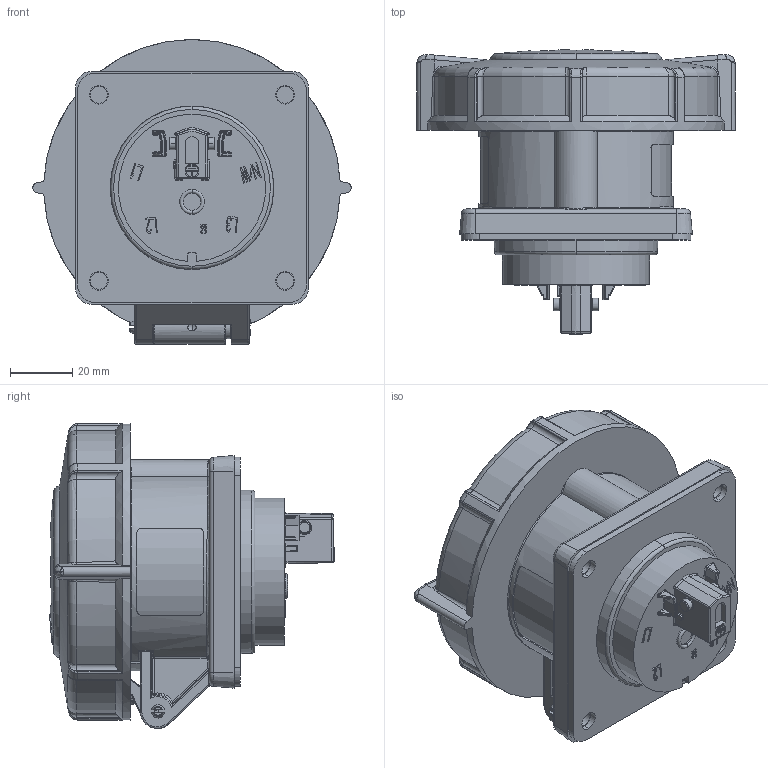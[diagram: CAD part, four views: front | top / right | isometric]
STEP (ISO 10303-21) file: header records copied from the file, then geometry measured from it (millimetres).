
FILE_DESCRIPTION((''),'2;1');
FILE_NAME('228A_SW0001','2020-11-20T08:52:26',('funke002'),('MENNEKES'),'CREO PARAMETRIC BY PTC INC, 2019080','CREO PARAMETRIC BY PTC INC, 2019080','');
FILE_SCHEMA(('AUTOMOTIVE_DESIGN { 1 0 10303 214 1 1 1 1 }'));
Products named in the file (1): 228A_SW0001
Bounding box: 102.6 x 91.78 x 98.29 mm (x, y, z)
Volume: 323075.4 mm3; surface area: 41622.7 mm2
Topology: 1 solids, 1 shells, 1131 faces, 2846 edges, 1758 vertices
Faces by surface type: plane 475, cylinder 289, bspline 198, torus 80, sphere 42, cone 39, extrusion 8
Entity records: 51608 total; most frequent: CARTESIAN_POINT 17836, ORIENTED_EDGE 5688, DIRECTION 4717, EDGE_CURVE 2844, VERTEX_POINT 1758, AXIS2_PLACEMENT_3D 1604, VECTOR 1509, LINE 1501
